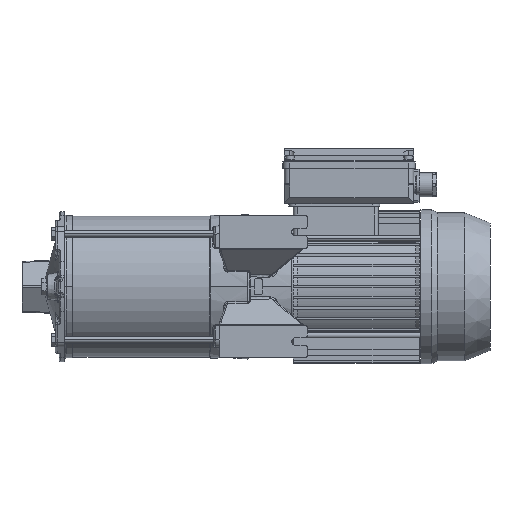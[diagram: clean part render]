
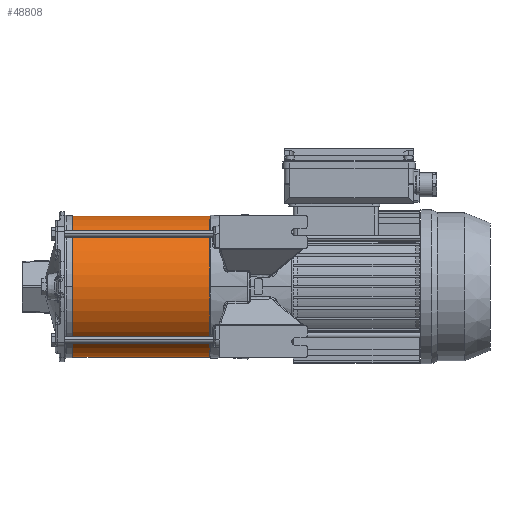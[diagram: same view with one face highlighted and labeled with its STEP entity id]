
A CAD part, front view. The second image highlights one B-rep face of the part: STEP entity #48808.
In plain terms, the highlighted cylindrical face has radius 64.5 mm (diameter 129 mm), a partial arc.
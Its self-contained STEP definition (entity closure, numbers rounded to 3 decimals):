
#48668=CARTESIAN_POINT('',(0.,0.,0.));
#48669=DIRECTION('',(0.,0.,1.));
#48670=DIRECTION('',(1.,0.,0.));
#48671=AXIS2_PLACEMENT_3D('',#48668,#48669,#48670);
#48700=DIRECTION('',(0.,0.,1.));
#48701=VECTOR('',#48700,124.8);
#48702=CARTESIAN_POINT('',(64.5,0.,0.));
#48703=LINE('',#48702,#48701);
#48707=DIRECTION('',(0.,0.,1.));
#48708=VECTOR('',#48707,124.8);
#48709=CARTESIAN_POINT('',(-64.5,0.,0.));
#48710=LINE('',#48709,#48708);
#48714=CARTESIAN_POINT('',(0.,0.,124.8));
#48715=DIRECTION('',(0.,0.,1.));
#48716=DIRECTION('',(1.,0.,0.));
#48717=AXIS2_PLACEMENT_3D('',#48714,#48715,#48716);
#48760=CARTESIAN_POINT('',(64.5,0.,0.));
#48761=CARTESIAN_POINT('',(-64.5,0.,0.));
#48762=VERTEX_POINT('',#48760);
#48763=VERTEX_POINT('',#48761);
#48768=CARTESIAN_POINT('',(64.5,0.,124.8));
#48769=CARTESIAN_POINT('',(-64.5,0.,124.8));
#48770=VERTEX_POINT('',#48768);
#48771=VERTEX_POINT('',#48769);
#48794=CARTESIAN_POINT('',(0.,0.,0.));
#48795=DIRECTION('',(0.,0.,1.));
#48796=DIRECTION('',(1.,0.,0.));
#48797=AXIS2_PLACEMENT_3D('',#48794,#48795,#48796);
#48798=CYLINDRICAL_SURFACE('',#48797,64.5);
#48799=ORIENTED_EDGE('',*,*,#48781,.F.);
#48801=ORIENTED_EDGE('',*,*,#48800,.T.);
#48803=ORIENTED_EDGE('',*,*,#48802,.T.);
#48805=ORIENTED_EDGE('',*,*,#48804,.F.);
#48806=EDGE_LOOP('',(#48799,#48801,#48803,#48805));
#48807=FACE_OUTER_BOUND('',#48806,.F.);
#48672=CIRCLE('',#48671,64.5);
#48718=CIRCLE('',#48717,64.5);
#48781=EDGE_CURVE('',#48762,#48763,#48672,.T.);
#48800=EDGE_CURVE('',#48762,#48770,#48703,.T.);
#48802=EDGE_CURVE('',#48770,#48771,#48718,.T.);
#48804=EDGE_CURVE('',#48763,#48771,#48710,.T.);
#48808=ADVANCED_FACE('',(#48807),#48798,.T.);
